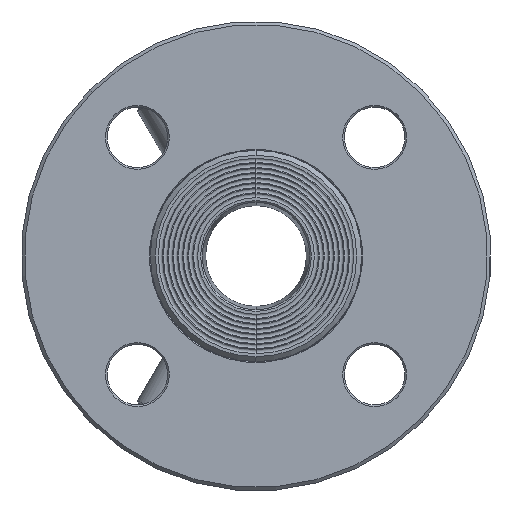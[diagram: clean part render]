
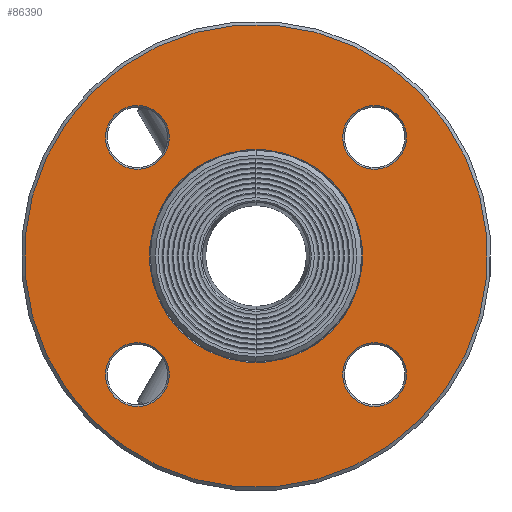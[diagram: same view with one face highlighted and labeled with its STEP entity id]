
A CAD part, left-side view. The second image highlights one B-rep face of the part: STEP entity #86390.
In plain terms, the highlighted planar face has unit normal (-1, 0, 0).
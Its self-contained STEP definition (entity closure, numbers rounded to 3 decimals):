
#445=CARTESIAN_POINT('',(-63.,0.,0.));
#446=DIRECTION('',(-1.,0.,0.));
#447=DIRECTION('',(0.,0.707,0.707));
#448=AXIS2_PLACEMENT_3D('',#445,#446,#447);
#453=CARTESIAN_POINT('',(-63.,0.,0.));
#454=DIRECTION('',(-1.,0.,0.));
#455=DIRECTION('',(0.,-0.707,-0.707));
#456=AXIS2_PLACEMENT_3D('',#453,#454,#455);
#461=CARTESIAN_POINT('',(-63.,0.,0.));
#462=DIRECTION('',(-1.,0.,0.));
#463=DIRECTION('',(0.,0.707,0.707));
#464=AXIS2_PLACEMENT_3D('',#461,#462,#463);
#469=CARTESIAN_POINT('',(-63.,0.,0.));
#470=DIRECTION('',(-1.,0.,0.));
#471=DIRECTION('',(0.,-0.707,-0.707));
#472=AXIS2_PLACEMENT_3D('',#469,#470,#471);
#507=CARTESIAN_POINT('',(-63.,-35.355,-35.355));
#508=DIRECTION('',(1.,0.,0.));
#509=DIRECTION('',(0.,-0.707,-0.707));
#510=AXIS2_PLACEMENT_3D('',#507,#508,#509);
#537=CARTESIAN_POINT('',(-63.,-35.355,-35.355));
#538=DIRECTION('',(1.,0.,0.));
#539=DIRECTION('',(0.,0.707,0.707));
#540=AXIS2_PLACEMENT_3D('',#537,#538,#539);
#613=CARTESIAN_POINT('',(-63.,35.355,-35.355));
#614=DIRECTION('',(1.,0.,0.));
#615=DIRECTION('',(0.,-0.707,-0.707));
#616=AXIS2_PLACEMENT_3D('',#613,#614,#615);
#643=CARTESIAN_POINT('',(-63.,35.355,-35.355));
#644=DIRECTION('',(1.,0.,0.));
#645=DIRECTION('',(0.,0.707,0.707));
#646=AXIS2_PLACEMENT_3D('',#643,#644,#645);
#719=CARTESIAN_POINT('',(-63.,35.355,35.355));
#720=DIRECTION('',(1.,0.,0.));
#721=DIRECTION('',(0.,-0.707,-0.707));
#722=AXIS2_PLACEMENT_3D('',#719,#720,#721);
#735=CARTESIAN_POINT('',(-63.,35.355,35.355));
#736=DIRECTION('',(1.,0.,0.));
#737=DIRECTION('',(0.,0.707,0.707));
#738=AXIS2_PLACEMENT_3D('',#735,#736,#737);
#825=CARTESIAN_POINT('',(-63.,-35.355,35.355));
#826=DIRECTION('',(1.,0.,0.));
#827=DIRECTION('',(0.,-0.707,-0.707));
#828=AXIS2_PLACEMENT_3D('',#825,#826,#827);
#855=CARTESIAN_POINT('',(-63.,-35.355,35.355));
#856=DIRECTION('',(1.,0.,0.));
#857=DIRECTION('',(0.,0.707,0.707));
#858=AXIS2_PLACEMENT_3D('',#855,#856,#857);
#83256=CARTESIAN_POINT('',(-63.,-28.638,42.073));
#83257=CARTESIAN_POINT('',(-63.,-42.073,28.638));
#83258=VERTEX_POINT('',#83256);
#83259=VERTEX_POINT('',#83257);
#83264=CARTESIAN_POINT('',(-63.,28.638,28.638));
#83265=CARTESIAN_POINT('',(-63.,42.073,42.073));
#83266=VERTEX_POINT('',#83264);
#83267=VERTEX_POINT('',#83265);
#83272=CARTESIAN_POINT('',(-63.,42.073,-28.638));
#83273=CARTESIAN_POINT('',(-63.,28.638,-42.073));
#83274=VERTEX_POINT('',#83272);
#83275=VERTEX_POINT('',#83273);
#83280=CARTESIAN_POINT('',(-63.,-28.638,-28.638));
#83281=CARTESIAN_POINT('',(-63.,-42.073,-42.073));
#83282=VERTEX_POINT('',#83280);
#83283=VERTEX_POINT('',#83281);
#83320=CARTESIAN_POINT('',(-63.,22.451,22.451));
#83321=CARTESIAN_POINT('',(-63.,-22.451,-22.451));
#83322=VERTEX_POINT('',#83320);
#83323=VERTEX_POINT('',#83321);
#83340=CARTESIAN_POINT('',(-63.,48.79,48.79));
#83341=CARTESIAN_POINT('',(-63.,-48.79,-48.79));
#83342=VERTEX_POINT('',#83340);
#83343=VERTEX_POINT('',#83341);
#86350=CARTESIAN_POINT('',(-63.,0.,0.));
#86351=DIRECTION('',(-1.,0.,0.));
#86352=DIRECTION('',(0.,-0.707,-0.707));
#86353=AXIS2_PLACEMENT_3D('',#86350,#86351,#86352);
#86354=PLANE('',#86353);
#86355=ORIENTED_EDGE('',*,*,#86340,.F.);
#86357=ORIENTED_EDGE('',*,*,#86356,.F.);
#86358=EDGE_LOOP('',(#86355,#86357));
#86359=FACE_OUTER_BOUND('',#86358,.F.);
#86361=ORIENTED_EDGE('',*,*,#86360,.F.);
#86363=ORIENTED_EDGE('',*,*,#86362,.F.);
#86364=EDGE_LOOP('',(#86361,#86363));
#86365=FACE_BOUND('',#86364,.F.);
#86367=ORIENTED_EDGE('',*,*,#86366,.F.);
#86369=ORIENTED_EDGE('',*,*,#86368,.F.);
#86370=EDGE_LOOP('',(#86367,#86369));
#86371=FACE_BOUND('',#86370,.F.);
#86373=ORIENTED_EDGE('',*,*,#86372,.F.);
#86375=ORIENTED_EDGE('',*,*,#86374,.F.);
#86376=EDGE_LOOP('',(#86373,#86375));
#86377=FACE_BOUND('',#86376,.F.);
#86379=ORIENTED_EDGE('',*,*,#86378,.F.);
#86381=ORIENTED_EDGE('',*,*,#86380,.F.);
#86382=EDGE_LOOP('',(#86379,#86381));
#86383=FACE_BOUND('',#86382,.F.);
#86385=ORIENTED_EDGE('',*,*,#86384,.T.);
#86387=ORIENTED_EDGE('',*,*,#86386,.T.);
#86388=EDGE_LOOP('',(#86385,#86387));
#86389=FACE_BOUND('',#86388,.F.);
#86390=ADVANCED_FACE('',(#86359,#86365,#86371,#86377,#86383,#86389),#86354,.T.);
#449=CIRCLE('',#448,69.);
#457=CIRCLE('',#456,69.);
#465=CIRCLE('',#464,31.75);
#473=CIRCLE('',#472,31.75);
#511=CIRCLE('',#510,9.5);
#541=CIRCLE('',#540,9.5);
#617=CIRCLE('',#616,9.5);
#647=CIRCLE('',#646,9.5);
#723=CIRCLE('',#722,9.5);
#739=CIRCLE('',#738,9.5);
#829=CIRCLE('',#828,9.5);
#859=CIRCLE('',#858,9.5);
#86340=EDGE_CURVE('',#83342,#83343,#449,.T.);
#86356=EDGE_CURVE('',#83343,#83342,#457,.T.);
#86360=EDGE_CURVE('',#83283,#83282,#511,.T.);
#86362=EDGE_CURVE('',#83282,#83283,#541,.T.);
#86366=EDGE_CURVE('',#83275,#83274,#617,.T.);
#86368=EDGE_CURVE('',#83274,#83275,#647,.T.);
#86372=EDGE_CURVE('',#83266,#83267,#723,.T.);
#86374=EDGE_CURVE('',#83267,#83266,#739,.T.);
#86378=EDGE_CURVE('',#83259,#83258,#829,.T.);
#86380=EDGE_CURVE('',#83258,#83259,#859,.T.);
#86384=EDGE_CURVE('',#83322,#83323,#465,.T.);
#86386=EDGE_CURVE('',#83323,#83322,#473,.T.);
